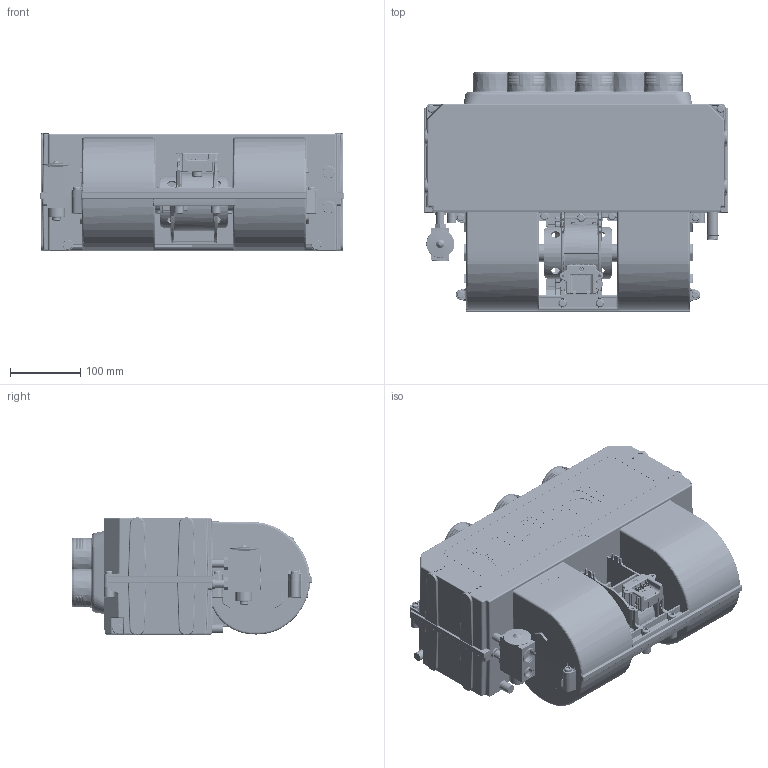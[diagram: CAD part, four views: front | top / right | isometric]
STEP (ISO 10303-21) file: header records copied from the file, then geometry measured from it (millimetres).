
FILE_DESCRIPTION(('STEP AP214'),'1');
FILE_NAME('16 IND=A Client .stp','2014-09-19T09:22:47',(' '),(' '),'Spatial InterOp 3D',' ',' ');
FILE_SCHEMA(('automotive_design'));
Length unit declared in the file: millimetre
Products named in the file (38): Face Falkon ED6; Berceau moteur réf 340.01.066 ; Moto ventilateur Ø74; Thermostat antigivre 12 & 24v #I=B; Obturateur détendeur Ø14.5; Obturateur détendeur Ø20.7; Détendeur à vis 2T ;  Radia evap Falkon; Vis 6.1x30 PH2; Caisse inférieure Falkon + insert ; Caisse supérieure Falkon + insert 
Assembly tree (48 placements, depth 3):
  (unnamed)
    Face Falkon ED6
    Berceau moteur réf 340.01.066   x2
    Moto ventilateur Ø74
    Thermostat antigivre 12 & 24v #I=B
      Thermostat antigivre 12 & 24v #I=B
      Thermostat antigivre 12 & 24v #I=B
      Thermostat antigivre 12 & 24v #I=B
      Thermostat antigivre 12 & 24v #I=B
      Thermostat antigivre 12 & 24v #I=B
      Thermostat antigivre 12 & 24v #I=B
      Thermostat antigivre 12 & 24v #I=B
      Thermostat antigivre 12 & 24v #I=B
      Thermostat antigivre 12 & 24v #I=B
      Thermostat antigivre 12 & 24v #I=B
      Thermostat antigivre 12 & 24v #I=B
      Thermostat antigivre 12 & 24v #I=B
      Thermostat antigivre 12 & 24v #I=B
      Thermostat antigivre 12 & 24v #I=B
      Thermostat antigivre 12 & 24v #I=B
      Thermostat antigivre 12 & 24v #I=B
      Thermostat antigivre 12 & 24v #I=B
      Thermostat antigivre 12 & 24v #I=B
    Obturateur détendeur Ø14.5
    Obturateur détendeur Ø20.7
    Détendeur à vis 2T 
     Radia evap Falkon
       Radia evap Falkon
       Radia evap Falkon
       Radia evap Falkon
       Radia evap Falkon
       Radia evap Falkon
       Radia evap Falkon
       Radia evap Falkon
       Radia evap Falkon
    Vis 6.1x30 PH2  x11
    Caisse inférieure Falkon + insert 
    Caisse supérieure Falkon + insert 
Bounding box: 432 x 341.27 x 166.8 mm (x, y, z)
Volume: 14538494 mm3; surface area: 1282567.4 mm2
Topology: 51 solids, 83 shells, 5553 faces, 14170 edges, 8960 vertices
Faces by surface type: plane 2875, cylinder 1292, bspline 566, extrusion 377, torus 184, sphere 136, cone 122, offset 1
Full cylindrical faces by diameter (mm): 0.244 x4, 0.428 x2, 1.2 x3, 1.214 x2, 1.4 x6, 1.518 x1, 2.35 x2, 2.5 x5, 2.8 x1, 2.9 x2, 3 x2, 3.3 x1, 3.7 x2, 3.8 x2, 4 x2, 4.9 x11, 5 x4, 6 x2, 6.3 x2, 6.5 x11, 8.2 x1, 8.6 x1, 8.7 x2, 9.107 x1, 10 x4, 10.6 x11, 11.45 x1, 11.71 x4, 12 x1, 12.5 x2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
Entity records: 284640 total; most frequent: CARTESIAN_POINT 118798, ORIENTED_EDGE 26202, DIRECTION 23636, EDGE_CURVE 13101, VERTEX_POINT 8440, VECTOR 8198, LINE 7839, AXIS2_PLACEMENT_3D 7719
